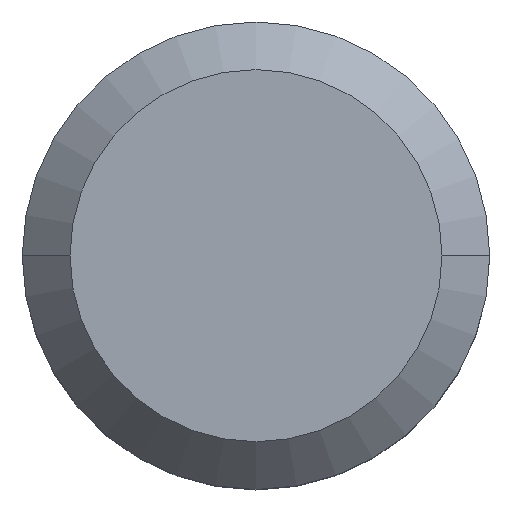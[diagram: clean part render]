
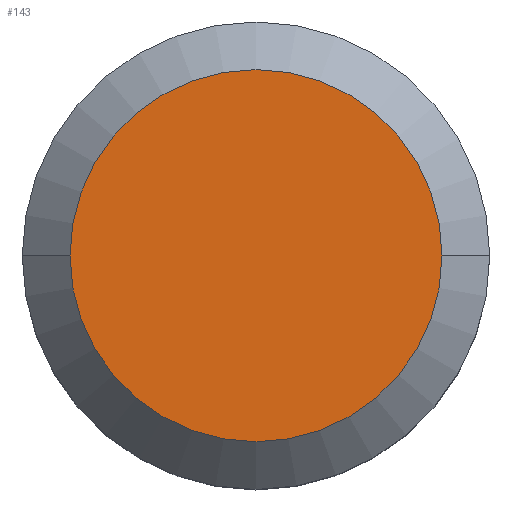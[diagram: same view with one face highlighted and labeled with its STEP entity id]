
A CAD part, top view. The second image highlights one B-rep face of the part: STEP entity #143.
In plain terms, the highlighted planar face has unit normal (0, 0, 1).
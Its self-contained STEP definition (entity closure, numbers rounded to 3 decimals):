
#7 = ORIENTED_EDGE ( 'NONE', *, *, #275, .T. ) ;
#26 = CARTESIAN_POINT ( 'NONE',  ( 0., 0., 23. ) ) ;
#45 = AXIS2_PLACEMENT_3D ( 'NONE', #26, #49, #276 ) ;
#48 = CARTESIAN_POINT ( 'NONE',  ( -3.9, 0., 23. ) ) ;
#49 = DIRECTION ( 'NONE',  ( 0., 0., 1. ) ) ;
#54 = DIRECTION ( 'NONE',  ( 0., 0., 1. ) ) ;
#106 = DIRECTION ( 'NONE',  ( 1., 0., 0. ) ) ;
#111 = CIRCLE ( 'NONE', #130, 3.9 ) ;
#130 = AXIS2_PLACEMENT_3D ( 'NONE', #227, #179, #106 ) ;
#143 = ADVANCED_FACE ( 'NONE', ( #176 ), #300, .T. ) ;
#147 = VERTEX_POINT ( 'NONE', #48 ) ;
#156 = DIRECTION ( 'NONE',  ( 1., 0., 0. ) ) ;
#170 = CIRCLE ( 'NONE', #233, 3.9 ) ;
#173 = ORIENTED_EDGE ( 'NONE', *, *, #288, .T. ) ;
#176 = FACE_OUTER_BOUND ( 'NONE', #205, .T. ) ;
#179 = DIRECTION ( 'NONE',  ( 0., 0., 1. ) ) ;
#186 = CARTESIAN_POINT ( 'NONE',  ( 3.9, 0., 23. ) ) ;
#205 = EDGE_LOOP ( 'NONE', ( #173, #7 ) ) ;
#224 = CARTESIAN_POINT ( 'NONE',  ( 0., 0., 23. ) ) ;
#227 = CARTESIAN_POINT ( 'NONE',  ( 0., 0., 23. ) ) ;
#233 = AXIS2_PLACEMENT_3D ( 'NONE', #224, #54, #156 ) ;
#275 = EDGE_CURVE ( 'NONE', #318, #147, #111, .T. ) ;
#276 = DIRECTION ( 'NONE',  ( 1., 0., 0. ) ) ;
#288 = EDGE_CURVE ( 'NONE', #147, #318, #170, .T. ) ;
#300 = PLANE ( 'NONE',  #45 ) ;
#318 = VERTEX_POINT ( 'NONE', #186 ) ;
